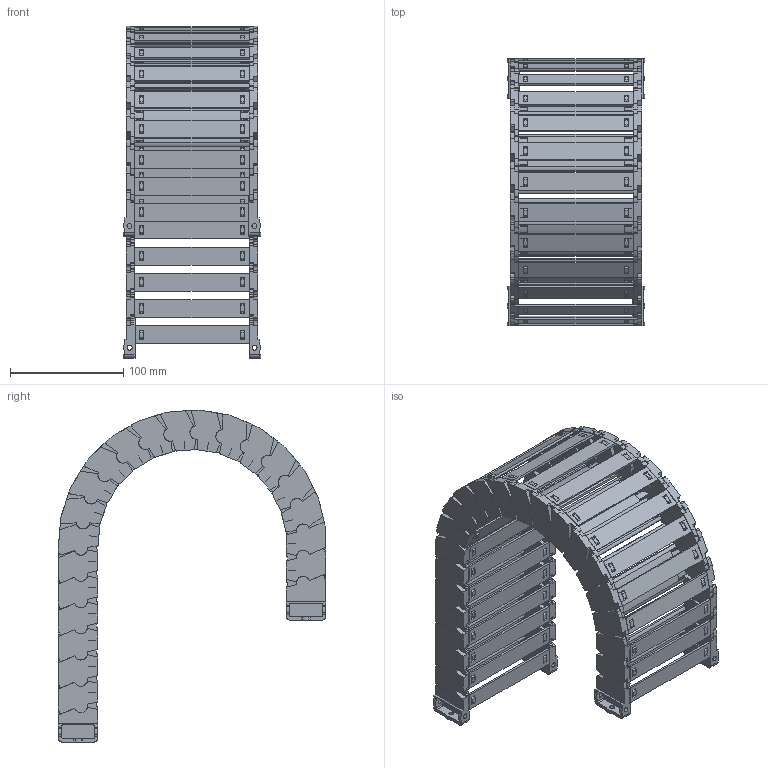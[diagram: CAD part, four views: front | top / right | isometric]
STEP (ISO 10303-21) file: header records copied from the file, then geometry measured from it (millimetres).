
FILE_DESCRIPTION((''),'2;1');
FILE_NAME('JY-25X100-R100_ASM','2026-05-07T14:26:04',('admin'),(''),'CREO PARAMETRIC BY PTC INC, 2021023','CREO PARAMETRIC BY PTC INC, 2021023','');
FILE_SCHEMA(('CONFIG_CONTROL_DESIGN'));
Length unit declared in the file: millimetre
Products named in the file (11): 25XL-L; 25-35XL-YP; 25XL-R; ASM0001_ASM; 25-LTT-A-L; 25-LTT-A-R; 25XL-LTT-A_ASM; 25-LTT-B-L; 25-LTT-B-R; 25XL-LTT-B_ASM; JY-25X100-R100_ASM
Assembly tree (35 placements, depth 3):
  JY-25X100-R100_ASM
    ASM0001_ASM  x21
      25XL-L
      25-35XL-YP
      25XL-R
    25XL-LTT-A_ASM
      25-LTT-A-L
      25-35XL-YP  x2
      25-LTT-A-R
    25XL-LTT-B_ASM
      25-LTT-B-L
      25-35XL-YP  x2
      25-LTT-B-R
Bounding box: 121.17 x 235.5 x 292.58 mm (x, y, z)
Volume: 492873.3 mm3; surface area: 363240.1 mm2
Topology: 92 solids, 113 shells, 4780 faces, 14283 edges, 9664 vertices
Faces by surface type: plane 3523, cylinder 1215, cone 42
Entity records: 17459 total; most frequent: CARTESIAN_POINT 3073, DIRECTION 3021, ORIENTED_EDGE 2962, EDGE_CURVE 1483, VECTOR 1053, LINE 1053, VERTEX_POINT 1004, AXIS2_PLACEMENT_3D 984
